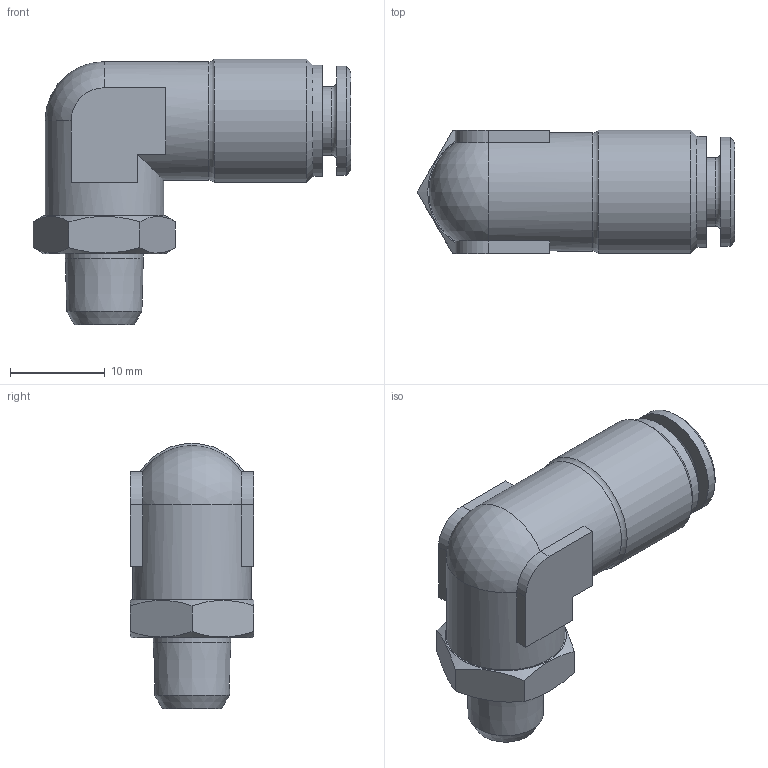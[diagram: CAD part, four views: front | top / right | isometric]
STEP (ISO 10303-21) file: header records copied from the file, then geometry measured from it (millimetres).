
FILE_DESCRIPTION(/* description */ (''),/* implementation_level */ '2;1');
FILE_NAME(/* name */ 'H220608_HDS022K_6_M8X1K_08.05.17',/* time_stamp */ '2017-05-08T14:30:14+02:00',/* author */ (''),/* organization */ (''),/* preprocessor_version */ 'ST-DEVELOPER v16.5',/* originating_system */ 'HiCAD 2016 2102.1 Build 498',/* authorisation */ '');
FILE_SCHEMA (('AUTOMOTIVE_DESIGN { 1 0 10303 214 1 1 1 1 }'));
Length unit declared in the file: millimetre
Products named in the file (4): Root; DR6-C_HDX_25.07.16; 540102-1; RIVOLUZIONE_0
Assembly tree (3 placements, depth 2):
  Root
    DR6-C_HDX_25.07.16
    540102-1
    RIVOLUZIONE_0
Bounding box: 33.51 x 13 x 28 mm (x, y, z)
Volume: 3905.3 mm3; surface area: 4209.7 mm2
Topology: 3 solids, 3 shells, 77 faces, 165 edges, 100 vertices
Faces by surface type: plane 33, cylinder 21, cone 17, torus 5, sphere 1
Full cylindrical faces by diameter (mm): 4 x2, 6 x1, 6.2 x1, 6.3 x1, 7.2 x1, 8.219 x1, 9 x2, 9.9 x1, 10 x1, 10.1 x2, 10.3 x1, 11.5 x1, 11.7 x1, 12.5 x2, 13 x1
Entity records: 3207 total; most frequent: CARTESIAN_POINT 461, DIRECTION 354, PRESENTATION_STYLE_ASSIGNMENT 233, COLOUR_RGB 232, DRAUGHTING_PRE_DEFINED_CURVE_FONT 230, CURVE_STYLE 230, OVER_RIDING_STYLED_ITEM 230, ORIENTED_EDGE 230
